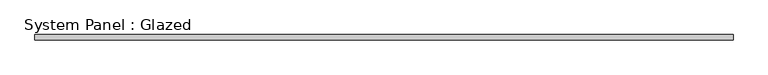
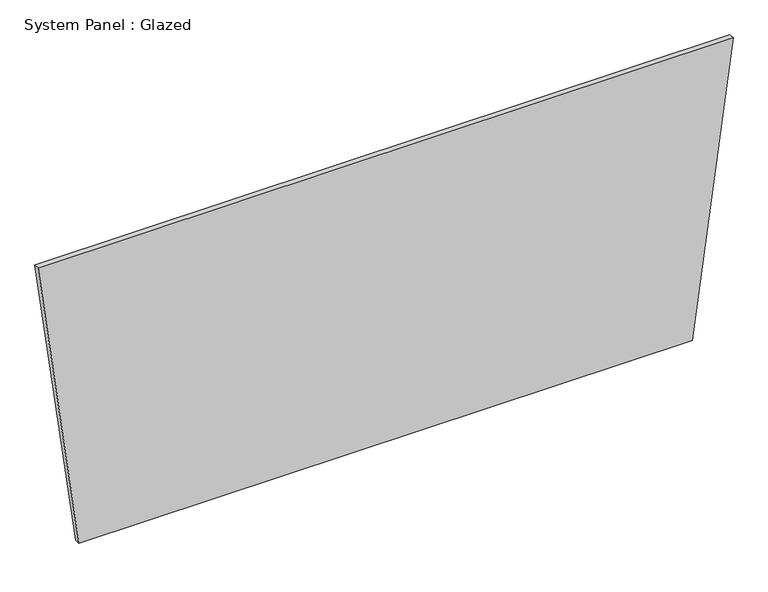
"""IFC4 building model written with IfcOpenShell, lengths in millimetres: plate geometry, System Panel : Glazed."""

from ifc_helpers import new_model, si_unit, frame, origin, place, context, project, spatial, polyline, outline, extrude, source, transform, mapped, element, save


def system_panel_glazed_bc7ae3a6(model_context):
    return source(origin(), model_context, "Body", "SweptSolid", [
        extrude(outline(polyline([(0.0, -1451.2341692), (0.0, 1451.2341692), (1447.0644321, 1644.6646052), (1447.0644321, -1644.6646052), (0.0, -1451.2341692)])), frame((0.0, -44.45, 0.0), z_axis=(0.0, 1.0, 0.0), x_axis=(0.0, 0.0, 1.0)), (0.0, 0.0, 1.0), 25.4),
    ])


if __name__ == "__main__":
    model = new_model("IFC4")
    model_context = context("Model", 3, world=origin())
    ifc_project = project(units=[si_unit("LENGTHUNIT", "METRE", prefix="MILLI")], contexts=[model_context])
    site = spatial("IfcSite", under=ifc_project)
    building = spatial("IfcBuilding", under=site)
    placement = place(None, origin())
    system_panel_glazed_shape = system_panel_glazed_bc7ae3a6(model_context)
    element("IfcPlate", 1, ObjectType="System Panel : Glazed", at=placement, inside=building, context=model_context, shape_type="MappedRepresentation", body=[
        mapped(system_panel_glazed_shape, transform((0.0, 0.0, 0.0), x_axis=(1.0, 0.0, 0.0), y_axis=(0.0, 1.0, 0.0), z_axis=(0.0, 0.0, 1.0))),
    ])
    save(model, "model.ifc")
